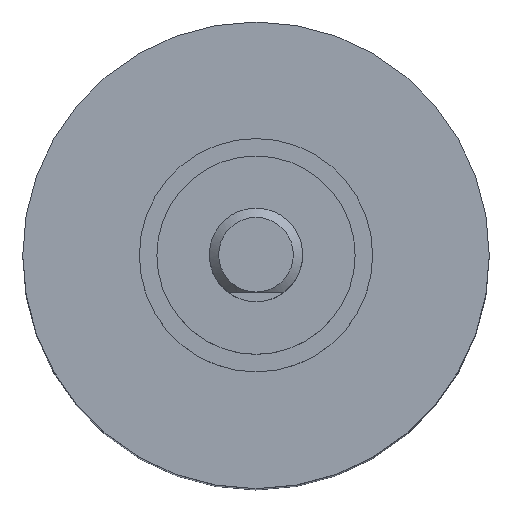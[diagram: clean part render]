
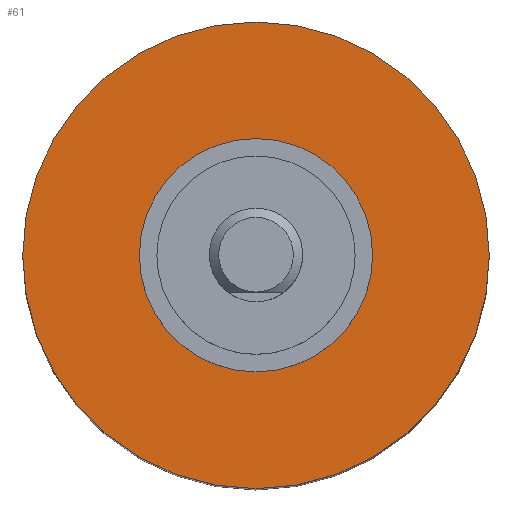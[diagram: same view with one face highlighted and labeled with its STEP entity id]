
A CAD part, top view. The second image highlights one B-rep face of the part: STEP entity #61.
In plain terms, the highlighted planar face has unit normal (0, 0, 1).
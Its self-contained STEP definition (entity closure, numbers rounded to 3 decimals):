
#36=PLANE('',#320);
#61=ADVANCED_FACE('',(#105,#106),#36,.T.);
#105=FACE_BOUND('',#144,.T.);
#106=FACE_BOUND('',#145,.T.);
#144=EDGE_LOOP('',(#193));
#145=EDGE_LOOP('',(#194));
#193=ORIENTED_EDGE('',*,*,#267,.T.);
#194=ORIENTED_EDGE('',*,*,#263,.F.);
#237=VERTEX_POINT('',#483);
#241=VERTEX_POINT('',#493);
#263=EDGE_CURVE('',#237,#237,#286,.T.);
#267=EDGE_CURVE('',#241,#241,#290,.T.);
#286=CIRCLE('',#312,5.);
#290=CIRCLE('',#318,2.5);
#312=AXIS2_PLACEMENT_3D('',#482,#370,#371);
#318=AXIS2_PLACEMENT_3D('',#492,#382,#383);
#320=AXIS2_PLACEMENT_3D('',#495,#386,#387);
#370=DIRECTION('',(0.,0.,-1.));
#371=DIRECTION('',(-1.,0.,0.));
#382=DIRECTION('',(0.,0.,-1.));
#383=DIRECTION('',(1.,0.,0.));
#386=DIRECTION('',(0.,0.,1.));
#387=DIRECTION('',(1.,0.,0.));
#482=CARTESIAN_POINT('',(0.,0.,0.));
#483=CARTESIAN_POINT('',(-5.,0.,0.));
#492=CARTESIAN_POINT('',(0.,0.,0.));
#493=CARTESIAN_POINT('',(2.5,0.,0.));
#495=CARTESIAN_POINT('',(0.,0.,0.));
